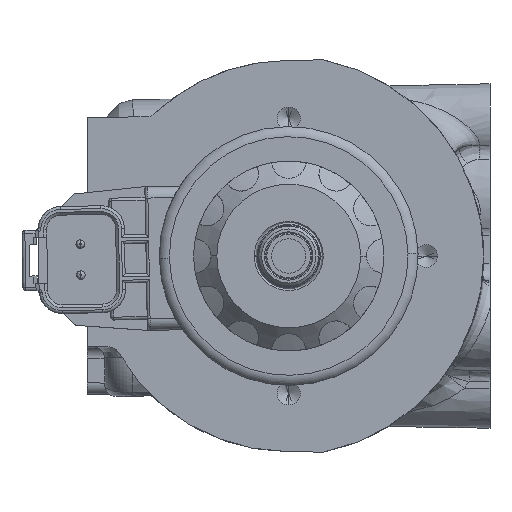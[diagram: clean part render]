
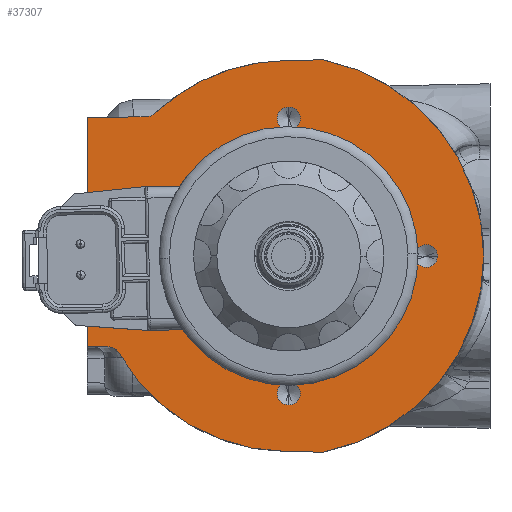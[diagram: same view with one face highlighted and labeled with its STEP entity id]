
A CAD part, left-side view. The second image highlights one B-rep face of the part: STEP entity #37307.
In plain terms, the highlighted planar face has unit normal (-1, 0, 0).
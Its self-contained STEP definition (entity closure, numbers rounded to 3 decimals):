
#8045=CARTESIAN_POINT('',(-53.,-5.814,-32.106));
#8046=DIRECTION('',(1.,0.,0.));
#8047=DIRECTION('',(0.,-0.205,-0.979));
#8048=AXIS2_PLACEMENT_3D('',#8045,#8046,#8047);
#8061=DIRECTION('',(0.,0.,-1.));
#8062=VECTOR('',#8061,39.787);
#8063=CARTESIAN_POINT('',(-53.,35.,24.044));
#8064=LINE('',#8063,#8062);
#8068=CARTESIAN_POINT('',(-53.,0.,0.));
#8069=DIRECTION('',(1.,0.,0.));
#8070=DIRECTION('',(0.,1.,0.));
#8071=AXIS2_PLACEMENT_3D('',#8068,#8069,#8070);
#8076=CARTESIAN_POINT('',(-53.,0.,0.));
#8077=DIRECTION('',(1.,0.,0.));
#8078=DIRECTION('',(0.,-1.,0.));
#8079=AXIS2_PLACEMENT_3D('',#8076,#8077,#8078);
#8084=CARTESIAN_POINT('',(-53.,-23.9,0.));
#8085=DIRECTION('',(-1.,0.,0.));
#8086=DIRECTION('',(0.,1.,0.));
#8087=AXIS2_PLACEMENT_3D('',#8084,#8085,#8086);
#8092=CARTESIAN_POINT('',(-53.,-23.9,0.));
#8093=DIRECTION('',(-1.,0.,0.));
#8094=DIRECTION('',(0.,-1.,0.));
#8095=AXIS2_PLACEMENT_3D('',#8092,#8093,#8094);
#8100=CARTESIAN_POINT('',(-53.,0.,-23.9));
#8101=DIRECTION('',(-1.,0.,0.));
#8102=DIRECTION('',(0.,0.,1.));
#8103=AXIS2_PLACEMENT_3D('',#8100,#8101,#8102);
#8108=CARTESIAN_POINT('',(-53.,0.,-23.9));
#8109=DIRECTION('',(-1.,0.,0.));
#8110=DIRECTION('',(0.,0.,-1.));
#8111=AXIS2_PLACEMENT_3D('',#8108,#8109,#8110);
#8116=CARTESIAN_POINT('',(-53.,0.,23.9));
#8117=DIRECTION('',(-1.,0.,0.));
#8118=DIRECTION('',(0.,0.,-1.));
#8119=AXIS2_PLACEMENT_3D('',#8116,#8117,#8118);
#8124=CARTESIAN_POINT('',(-53.,0.,23.9));
#8125=DIRECTION('',(-1.,0.,0.));
#8126=DIRECTION('',(0.,0.,1.));
#8127=AXIS2_PLACEMENT_3D('',#8124,#8125,#8126);
#8153=DIRECTION('',(0.,-1.,0.017));
#8154=VECTOR('',#8153,10.373);
#8155=CARTESIAN_POINT('',(-53.,35.,24.044));
#8156=LINE('',#8155,#8154);
#8342=CARTESIAN_POINT('',(-53.,-5.814,32.106));
#8343=DIRECTION('',(1.,0.,0.));
#8344=DIRECTION('',(0.,0.017,1.));
#8345=AXIS2_PLACEMENT_3D('',#8342,#8343,#8344);
#8358=DIRECTION('',(0.,1.,-0.017));
#8359=VECTOR('',#8358,6.373);
#8360=CARTESIAN_POINT('',(-53.,-5.779,34.106));
#8361=LINE('',#8360,#8359);
#8385=CARTESIAN_POINT('',(-53.,0.,0.));
#8386=DIRECTION('',(-1.,0.,0.));
#8387=DIRECTION('',(0.,0.017,1.));
#8388=AXIS2_PLACEMENT_3D('',#8385,#8386,#8387);
#8439=CARTESIAN_POINT('',(-53.,0.,0.));
#8440=DIRECTION('',(-1.,0.,0.));
#8441=DIRECTION('',(0.,0.869,-0.495));
#8442=AXIS2_PLACEMENT_3D('',#8439,#8440,#8441);
#8462=CARTESIAN_POINT('',(-53.,24.663,26.224));
#8463=DIRECTION('',(1.,0.,0.));
#8464=DIRECTION('',(0.,-0.685,-0.728));
#8465=AXIS2_PLACEMENT_3D('',#8462,#8463,#8464);
#8494=DIRECTION('',(0.,-1.,-0.017));
#8495=VECTOR('',#8494,6.373);
#8496=CARTESIAN_POINT('',(-53.,0.593,-33.995));
#8497=LINE('',#8496,#8495);
#18567=DIRECTION('',(0.,-1.,-0.017));
#18568=VECTOR('',#18567,3.755);
#18569=CARTESIAN_POINT('',(-53.,35.,-15.744));
#18570=LINE('',#18569,#18568);
#18809=CARTESIAN_POINT('',(-53.,31.281,-17.799));
#18810=DIRECTION('',(-1.,0.,0.));
#18811=DIRECTION('',(0.,-0.869,0.495));
#18812=AXIS2_PLACEMENT_3D('',#18809,#18810,#18811);
#19022=CARTESIAN_POINT('',(-53.,0.896,0.));
#19023=DIRECTION('',(-1.,0.,0.));
#19024=DIRECTION('',(0.,-0.205,-0.979));
#19025=AXIS2_PLACEMENT_3D('',#19022,#19023,#19024);
#23636=CARTESIAN_POINT('',(-53.,0.593,-33.995));
#23637=CARTESIAN_POINT('',(-53.,-5.779,-34.106));
#23638=VERTEX_POINT('',#23636);
#23639=VERTEX_POINT('',#23637);
#23640=CARTESIAN_POINT('',(-53.,-6.223,-34.064));
#23641=CARTESIAN_POINT('',(-53.,-6.223,34.064));
#23642=VERTEX_POINT('',#23640);
#23643=VERTEX_POINT('',#23641);
#23644=CARTESIAN_POINT('',(-53.,-5.779,34.106));
#23645=CARTESIAN_POINT('',(-53.,0.593,33.995));
#23646=VERTEX_POINT('',#23644);
#23647=VERTEX_POINT('',#23645);
#23648=CARTESIAN_POINT('',(-53.,23.293,24.767));
#23649=VERTEX_POINT('',#23648);
#23650=CARTESIAN_POINT('',(-53.,29.551,-16.815));
#23651=VERTEX_POINT('',#23650);
#23668=CARTESIAN_POINT('',(-53.,31.246,-15.809));
#23669=VERTEX_POINT('',#23668);
#23674=CARTESIAN_POINT('',(-53.,24.628,24.225));
#23675=VERTEX_POINT('',#23674);
#23750=CARTESIAN_POINT('',(-53.,16.,0.));
#23751=CARTESIAN_POINT('',(-53.,-16.,0.));
#23752=VERTEX_POINT('',#23750);
#23753=VERTEX_POINT('',#23751);
#23828=CARTESIAN_POINT('',(-53.,35.,-15.744));
#23830=VERTEX_POINT('',#23828);
#23833=CARTESIAN_POINT('',(-53.,35.,24.044));
#23835=VERTEX_POINT('',#23833);
#24242=CARTESIAN_POINT('',(-53.,-21.9,0.));
#24243=CARTESIAN_POINT('',(-53.,-25.9,0.));
#24244=VERTEX_POINT('',#24242);
#24245=VERTEX_POINT('',#24243);
#24252=CARTESIAN_POINT('',(-53.,0.,-21.9));
#24253=CARTESIAN_POINT('',(-53.,0.,-25.9));
#24254=VERTEX_POINT('',#24252);
#24255=VERTEX_POINT('',#24253);
#24262=CARTESIAN_POINT('',(-53.,0.,21.9));
#24263=CARTESIAN_POINT('',(-53.,0.,25.9));
#24264=VERTEX_POINT('',#24262);
#24265=VERTEX_POINT('',#24263);
#37254=CARTESIAN_POINT('',(-53.,0.,0.));
#37255=DIRECTION('',(1.,0.,0.));
#37256=DIRECTION('',(0.,-1.,0.));
#37257=AXIS2_PLACEMENT_3D('',#37254,#37255,#37256);
#37258=PLANE('',#37257);
#37259=ORIENTED_EDGE('',*,*,#28588,.F.);
#37261=ORIENTED_EDGE('',*,*,#37260,.T.);
#37263=ORIENTED_EDGE('',*,*,#37262,.F.);
#37265=ORIENTED_EDGE('',*,*,#37264,.F.);
#37267=ORIENTED_EDGE('',*,*,#37266,.F.);
#37269=ORIENTED_EDGE('',*,*,#37268,.T.);
#37271=ORIENTED_EDGE('',*,*,#37270,.F.);
#37272=ORIENTED_EDGE('',*,*,#37244,.T.);
#37274=ORIENTED_EDGE('',*,*,#37273,.F.);
#37276=ORIENTED_EDGE('',*,*,#37275,.F.);
#37278=ORIENTED_EDGE('',*,*,#37277,.T.);
#37280=ORIENTED_EDGE('',*,*,#37279,.F.);
#37281=EDGE_LOOP('',(#37259,#37261,#37263,#37265,#37267,#37269,#37271,#37272,
#37274,#37276,#37278,#37280));
#37282=FACE_OUTER_BOUND('',#37281,.F.);
#37284=ORIENTED_EDGE('',*,*,#37283,.F.);
#37286=ORIENTED_EDGE('',*,*,#37285,.F.);
#37287=EDGE_LOOP('',(#37284,#37286));
#37288=FACE_BOUND('',#37287,.F.);
#37290=ORIENTED_EDGE('',*,*,#37289,.T.);
#37292=ORIENTED_EDGE('',*,*,#37291,.T.);
#37293=EDGE_LOOP('',(#37290,#37292));
#37294=FACE_BOUND('',#37293,.F.);
#37296=ORIENTED_EDGE('',*,*,#37295,.T.);
#37298=ORIENTED_EDGE('',*,*,#37297,.T.);
#37299=EDGE_LOOP('',(#37296,#37298));
#37300=FACE_BOUND('',#37299,.F.);
#37302=ORIENTED_EDGE('',*,*,#37301,.T.);
#37304=ORIENTED_EDGE('',*,*,#37303,.T.);
#37305=EDGE_LOOP('',(#37302,#37304));
#37306=FACE_BOUND('',#37305,.F.);
#8049=CIRCLE('',#8048,2.);
#8072=CIRCLE('',#8071,16.);
#8080=CIRCLE('',#8079,16.);
#8088=CIRCLE('',#8087,2.);
#8096=CIRCLE('',#8095,2.);
#8104=CIRCLE('',#8103,2.);
#8112=CIRCLE('',#8111,2.);
#8120=CIRCLE('',#8119,2.);
#8128=CIRCLE('',#8127,2.);
#8346=CIRCLE('',#8345,2.);
#8389=CIRCLE('',#8388,34.);
#8443=CIRCLE('',#8442,34.);
#8466=CIRCLE('',#8465,2.);
#18813=CIRCLE('',#18812,1.99);
#19026=CIRCLE('',#19025,34.8);
#28588=EDGE_CURVE('',#23835,#23830,#8064,.T.);
#37244=EDGE_CURVE('',#23642,#23639,#8049,.T.);
#37260=EDGE_CURVE('',#23835,#23675,#8156,.T.);
#37262=EDGE_CURVE('',#23649,#23675,#8466,.T.);
#37264=EDGE_CURVE('',#23647,#23649,#8389,.T.);
#37266=EDGE_CURVE('',#23646,#23647,#8361,.T.);
#37268=EDGE_CURVE('',#23646,#23643,#8346,.T.);
#37270=EDGE_CURVE('',#23642,#23643,#19026,.T.);
#37273=EDGE_CURVE('',#23638,#23639,#8497,.T.);
#37275=EDGE_CURVE('',#23651,#23638,#8443,.T.);
#37277=EDGE_CURVE('',#23651,#23669,#18813,.T.);
#37279=EDGE_CURVE('',#23830,#23669,#18570,.T.);
#37283=EDGE_CURVE('',#23752,#23753,#8072,.T.);
#37285=EDGE_CURVE('',#23753,#23752,#8080,.T.);
#37289=EDGE_CURVE('',#24244,#24245,#8088,.T.);
#37291=EDGE_CURVE('',#24245,#24244,#8096,.T.);
#37295=EDGE_CURVE('',#24254,#24255,#8104,.T.);
#37297=EDGE_CURVE('',#24255,#24254,#8112,.T.);
#37301=EDGE_CURVE('',#24264,#24265,#8120,.T.);
#37303=EDGE_CURVE('',#24265,#24264,#8128,.T.);
#37307=ADVANCED_FACE('',(#37282,#37288,#37294,#37300,#37306),#37258,.F.);
